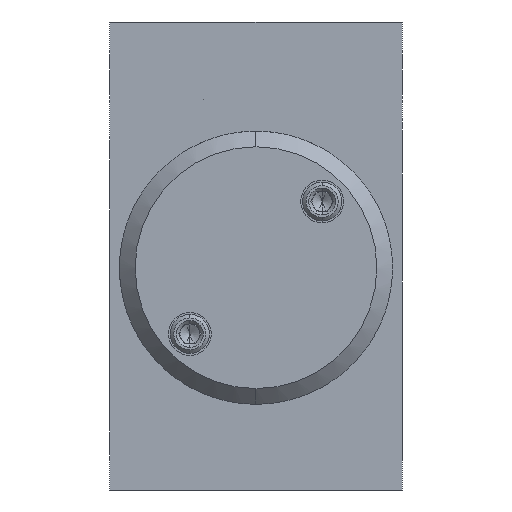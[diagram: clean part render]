
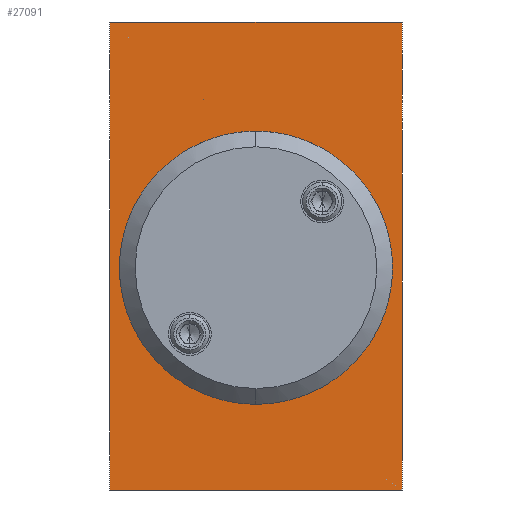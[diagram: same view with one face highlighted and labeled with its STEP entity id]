
A CAD part, left-side view. The second image highlights one B-rep face of the part: STEP entity #27091.
In plain terms, the highlighted planar face has unit normal (-1, 0, 0).
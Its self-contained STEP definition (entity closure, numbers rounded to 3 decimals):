
#2771 = VERTEX_POINT ( 'NONE', #14980 ) ;
#3662 = CARTESIAN_POINT ( 'NONE',  ( 0., 18.75, -30. ) ) ;
#8165 = DIRECTION ( 'NONE',  ( -1., 0., 0. ) ) ;
#10158 = CARTESIAN_POINT ( 'NONE',  ( 0., 0., -17.5 ) ) ;
#11814 = DIRECTION ( 'NONE',  ( -1., 0., 0. ) ) ;
#14980 = CARTESIAN_POINT ( 'NONE',  ( 0., 0., 14.5 ) ) ;
#16835 = PLANE ( 'NONE',  #66843 ) ;
#20344 = CARTESIAN_POINT ( 'NONE',  ( 0., 0., -1.5 ) ) ;
#21737 = LINE ( 'NONE', #23368, #70133 ) ;
#22164 = DIRECTION ( 'NONE',  ( 0., 1., 0. ) ) ;
#22447 = EDGE_CURVE ( 'NONE', #35317, #2771, #46995, .T. ) ;
#23368 = CARTESIAN_POINT ( 'NONE',  ( 0., -18.75, 30. ) ) ;
#24293 = VECTOR ( 'NONE', #22164, 1000. ) ;
#27091 = ADVANCED_FACE ( 'NONE', ( #96488, #117576 ), #16835, .T. ) ;
#27162 = LINE ( 'NONE', #67529, #24293 ) ;
#27325 = EDGE_LOOP ( 'NONE', ( #116037, #92255, #89304, #94956 ) ) ;
#29434 = CARTESIAN_POINT ( 'NONE',  ( 0., -18.75, -30. ) ) ;
#29472 = DIRECTION ( 'NONE',  ( 0., 0., 1. ) ) ;
#33096 = CIRCLE ( 'NONE', #57047, 16. ) ;
#35317 = VERTEX_POINT ( 'NONE', #10158 ) ;
#40398 = AXIS2_PLACEMENT_3D ( 'NONE', #66214, #11814, #75372 ) ;
#41777 = CARTESIAN_POINT ( 'NONE',  ( 0., -18.75, 30. ) ) ;
#41803 = VERTEX_POINT ( 'NONE', #3662 ) ;
#42093 = DIRECTION ( 'NONE',  ( 0., 0., 1. ) ) ;
#43104 = EDGE_CURVE ( 'NONE', #2771, #35317, #33096, .T. ) ;
#43747 = EDGE_CURVE ( 'NONE', #97240, #41803, #27162, .T. ) ;
#44629 = EDGE_CURVE ( 'NONE', #94083, #97240, #21737, .T. ) ;
#44644 = EDGE_CURVE ( 'NONE', #86331, #94083, #46056, .T. ) ;
#45020 = EDGE_CURVE ( 'NONE', #41803, #86331, #55933, .T. ) ;
#46056 = LINE ( 'NONE', #41777, #91403 ) ;
#46995 = CIRCLE ( 'NONE', #40398, 16. ) ;
#55933 = LINE ( 'NONE', #81763, #80082 ) ;
#57047 = AXIS2_PLACEMENT_3D ( 'NONE', #20344, #84003, #29472 ) ;
#60048 = DIRECTION ( 'NONE',  ( 0., -1., 0. ) ) ;
#62599 = CARTESIAN_POINT ( 'NONE',  ( 0., 18.75, -30. ) ) ;
#66214 = CARTESIAN_POINT ( 'NONE',  ( 0., 0., -1.5 ) ) ;
#66843 = AXIS2_PLACEMENT_3D ( 'NONE', #62599, #8165, #71713 ) ;
#67529 = CARTESIAN_POINT ( 'NONE',  ( 0., -18.75, -30. ) ) ;
#70133 = VECTOR ( 'NONE', #86654, 1000. ) ;
#71713 = DIRECTION ( 'NONE',  ( 0., 0., 1. ) ) ;
#74128 = CARTESIAN_POINT ( 'NONE',  ( 0., 18.75, 30. ) ) ;
#75372 = DIRECTION ( 'NONE',  ( 0., 0., 1. ) ) ;
#80082 = VECTOR ( 'NONE', #42093, 1000. ) ;
#80971 = ORIENTED_EDGE ( 'NONE', *, *, #43104, .F. ) ;
#81763 = CARTESIAN_POINT ( 'NONE',  ( 0., 18.75, 30. ) ) ;
#82232 = ORIENTED_EDGE ( 'NONE', *, *, #22447, .F. ) ;
#84003 = DIRECTION ( 'NONE',  ( -1., 0., 0. ) ) ;
#86331 = VERTEX_POINT ( 'NONE', #74128 ) ;
#86654 = DIRECTION ( 'NONE',  ( 0., 0., -1. ) ) ;
#89304 = ORIENTED_EDGE ( 'NONE', *, *, #44644, .F. ) ;
#91403 = VECTOR ( 'NONE', #60048, 1000. ) ;
#92255 = ORIENTED_EDGE ( 'NONE', *, *, #44629, .F. ) ;
#94083 = VERTEX_POINT ( 'NONE', #111320 ) ;
#94956 = ORIENTED_EDGE ( 'NONE', *, *, #45020, .F. ) ;
#96488 = FACE_BOUND ( 'NONE', #105499, .T. ) ;
#97240 = VERTEX_POINT ( 'NONE', #29434 ) ;
#105499 = EDGE_LOOP ( 'NONE', ( #80971, #82232 ) ) ;
#111320 = CARTESIAN_POINT ( 'NONE',  ( 0., -18.75, 30. ) ) ;
#116037 = ORIENTED_EDGE ( 'NONE', *, *, #43747, .F. ) ;
#117576 = FACE_OUTER_BOUND ( 'NONE', #27325, .T. ) ;
